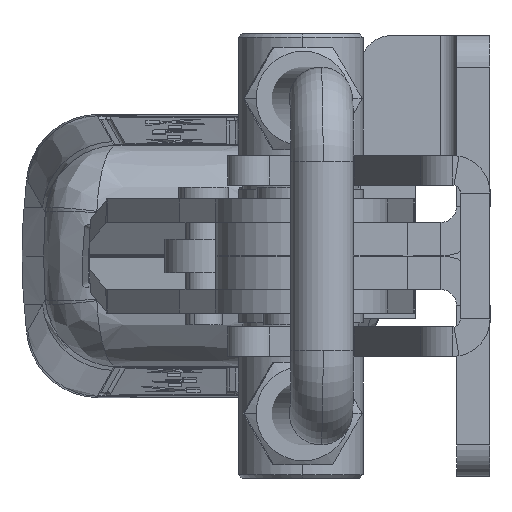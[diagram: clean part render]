
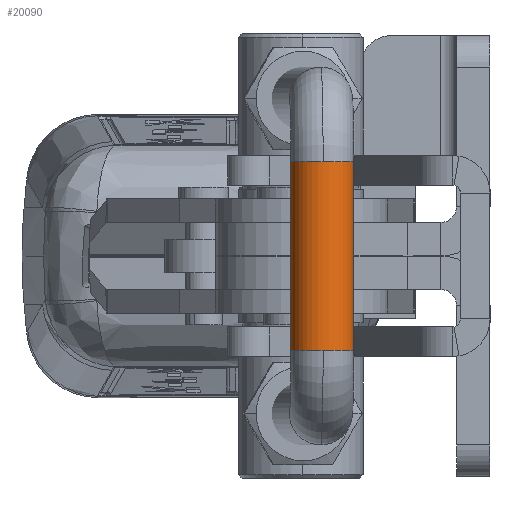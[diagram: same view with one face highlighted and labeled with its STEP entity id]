
A CAD part, left-side view. The second image highlights one B-rep face of the part: STEP entity #20090.
In plain terms, the highlighted cylindrical face has radius 4 mm (diameter 8 mm), a partial arc.
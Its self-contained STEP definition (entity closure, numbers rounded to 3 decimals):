
#539 = VERTEX_POINT ( 'NONE', #3264 ) ;
#606 = DIRECTION ( 'NONE',  ( 0., 0., 1. ) ) ;
#1223 = ORIENTED_EDGE ( 'NONE', *, *, #1819, .F. ) ;
#1481 = CARTESIAN_POINT ( 'NONE',  ( -12., 130., 0. ) ) ;
#1819 = EDGE_CURVE ( 'NONE', #23417, #17385, #15071, .T. ) ;
#2370 = CARTESIAN_POINT ( 'NONE',  ( -12., 134., 0. ) ) ;
#2402 = CARTESIAN_POINT ( 'NONE',  ( -12., 130., 0. ) ) ;
#2614 = DIRECTION ( 'NONE',  ( 1., 0., 0. ) ) ;
#2809 = CARTESIAN_POINT ( 'NONE',  ( -12., 130., 0. ) ) ;
#3264 = CARTESIAN_POINT ( 'NONE',  ( -12., 130., 4. ) ) ;
#4114 = ORIENTED_EDGE ( 'NONE', *, *, #11352, .T. ) ;
#4512 = DIRECTION ( 'NONE',  ( 0., 0., 1. ) ) ;
#4912 = DIRECTION ( 'NONE',  ( 0., 0., 1. ) ) ;
#5023 = CIRCLE ( 'NONE', #5365, 4. ) ;
#5365 = AXIS2_PLACEMENT_3D ( 'NONE', #2809, #17331, #4912 ) ;
#5668 = CIRCLE ( 'NONE', #23262, 4. ) ;
#6267 = LINE ( 'NONE', #23343, #20204 ) ;
#7570 = CARTESIAN_POINT ( 'NONE',  ( -12., 130., -4. ) ) ;
#7929 = CIRCLE ( 'NONE', #23348, 4. ) ;
#8872 = VERTEX_POINT ( 'NONE', #2370 ) ;
#9803 = EDGE_CURVE ( 'NONE', #26845, #8872, #5023, .T. ) ;
#10946 = CARTESIAN_POINT ( 'NONE',  ( 12., 130., 4. ) ) ;
#11352 = EDGE_CURVE ( 'NONE', #539, #17385, #6267, .T. ) ;
#11660 = ORIENTED_EDGE ( 'NONE', *, *, #26579, .F. ) ;
#12112 = CARTESIAN_POINT ( 'NONE',  ( -12., 130., -4. ) ) ;
#13010 = DIRECTION ( 'NONE',  ( 1., 0., 0. ) ) ;
#13101 = FACE_OUTER_BOUND ( 'NONE', #23366, .T. ) ;
#13837 = ORIENTED_EDGE ( 'NONE', *, *, #19534, .T. ) ;
#13890 = DIRECTION ( 'NONE',  ( 0., 0., -1. ) ) ;
#14231 = DIRECTION ( 'NONE',  ( 1., 0., 0. ) ) ;
#15040 = CARTESIAN_POINT ( 'NONE',  ( 12., 130., 0. ) ) ;
#15071 = CIRCLE ( 'NONE', #20372, 4. ) ;
#15089 = DIRECTION ( 'NONE',  ( 1., 0., 0. ) ) ;
#15803 = CARTESIAN_POINT ( 'NONE',  ( 12., 134., 0. ) ) ;
#15996 = DIRECTION ( 'NONE',  ( 1., 0., 0. ) ) ;
#16171 = AXIS2_PLACEMENT_3D ( 'NONE', #1481, #15996, #13890 ) ;
#16944 = DIRECTION ( 'NONE',  ( 1., 0., 0. ) ) ;
#17153 = DIRECTION ( 'NONE',  ( 0., 0., 1. ) ) ;
#17331 = DIRECTION ( 'NONE',  ( 1., 0., 0. ) ) ;
#17385 = VERTEX_POINT ( 'NONE', #10946 ) ;
#17988 = CYLINDRICAL_SURFACE ( 'NONE', #16171, 4. ) ;
#19049 = ORIENTED_EDGE ( 'NONE', *, *, #9803, .T. ) ;
#19534 = EDGE_CURVE ( 'NONE', #8872, #539, #5668, .T. ) ;
#20090 = ADVANCED_FACE ( 'NONE', ( #13101 ), #17988, .T. ) ;
#20204 = VECTOR ( 'NONE', #15089, 1000. ) ;
#20372 = AXIS2_PLACEMENT_3D ( 'NONE', #25429, #13010, #606 ) ;
#20931 = VERTEX_POINT ( 'NONE', #26088 ) ;
#21998 = EDGE_CURVE ( 'NONE', #26845, #20931, #23091, .T. ) ;
#23091 = LINE ( 'NONE', #12112, #23768 ) ;
#23262 = AXIS2_PLACEMENT_3D ( 'NONE', #2402, #16944, #4512 ) ;
#23343 = CARTESIAN_POINT ( 'NONE',  ( -12., 130., 4. ) ) ;
#23348 = AXIS2_PLACEMENT_3D ( 'NONE', #15040, #2614, #17153 ) ;
#23366 = EDGE_LOOP ( 'NONE', ( #19049, #13837, #4114, #1223, #11660, #23522 ) ) ;
#23417 = VERTEX_POINT ( 'NONE', #15803 ) ;
#23522 = ORIENTED_EDGE ( 'NONE', *, *, #21998, .F. ) ;
#23768 = VECTOR ( 'NONE', #14231, 1000. ) ;
#25429 = CARTESIAN_POINT ( 'NONE',  ( 12., 130., 0. ) ) ;
#26088 = CARTESIAN_POINT ( 'NONE',  ( 12., 130., -4. ) ) ;
#26579 = EDGE_CURVE ( 'NONE', #20931, #23417, #7929, .T. ) ;
#26845 = VERTEX_POINT ( 'NONE', #7570 ) ;
